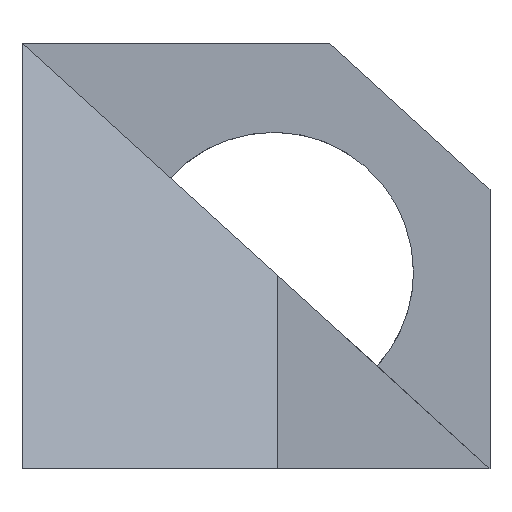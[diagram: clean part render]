
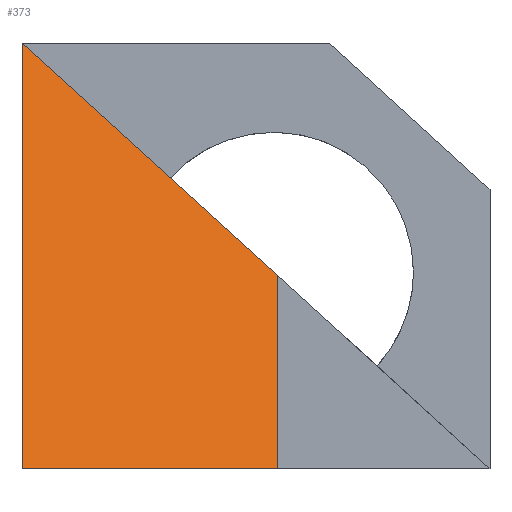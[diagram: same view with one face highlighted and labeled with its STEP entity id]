
A CAD part, left-side view. The second image highlights one B-rep face of the part: STEP entity #373.
In plain terms, the highlighted planar face has unit normal (-0.94, 0, 0.342).
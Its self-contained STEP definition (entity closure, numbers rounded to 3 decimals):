
#30=FACE_OUTER_BOUND('',#49,.T.);
#49=EDGE_LOOP('',(#286,#287,#288,#289));
#74=LINE('',#554,#121);
#83=LINE('',#572,#130);
#89=LINE('',#586,#136);
#90=LINE('',#588,#137);
#121=VECTOR('',#447,10.);
#130=VECTOR('',#458,10.);
#136=VECTOR('',#474,10.);
#137=VECTOR('',#477,10.);
#165=VERTEX_POINT('',#551);
#166=VERTEX_POINT('',#553);
#173=VERTEX_POINT('',#569);
#174=VERTEX_POINT('',#571);
#202=EDGE_CURVE('',#165,#166,#74,.T.);
#211=EDGE_CURVE('',#174,#173,#83,.T.);
#219=EDGE_CURVE('',#165,#174,#89,.T.);
#220=EDGE_CURVE('',#166,#173,#90,.T.);
#286=ORIENTED_EDGE('',*,*,#211,.T.);
#287=ORIENTED_EDGE('',*,*,#220,.F.);
#288=ORIENTED_EDGE('',*,*,#202,.F.);
#289=ORIENTED_EDGE('',*,*,#219,.T.);
#355=PLANE('',#408);
#373=ADVANCED_FACE('',(#30),#355,.T.);
#408=AXIS2_PLACEMENT_3D('',#587,#475,#476);
#447=DIRECTION('',(0.,1.,0.));
#458=DIRECTION('',(0.238,0.719,0.653));
#474=DIRECTION('',(0.342,0.,0.94));
#475=DIRECTION('center_axis',(-0.94,0.,0.342));
#476=DIRECTION('ref_axis',(0.342,0.,0.94));
#477=DIRECTION('',(0.342,0.,0.94));
#551=CARTESIAN_POINT('',(0.,35.,0.));
#553=CARTESIAN_POINT('',(0.,77.,0.));
#554=CARTESIAN_POINT('',(0.,0.,0.));
#569=CARTESIAN_POINT('',(25.478,77.,70.));
#571=CARTESIAN_POINT('',(11.581,35.,31.818));
#572=CARTESIAN_POINT('',(0.,0.,0.));
#586=CARTESIAN_POINT('',(8.666,35.,23.809));
#587=CARTESIAN_POINT('Origin',(0.,0.,0.));
#588=CARTESIAN_POINT('',(0.,77.,0.));
